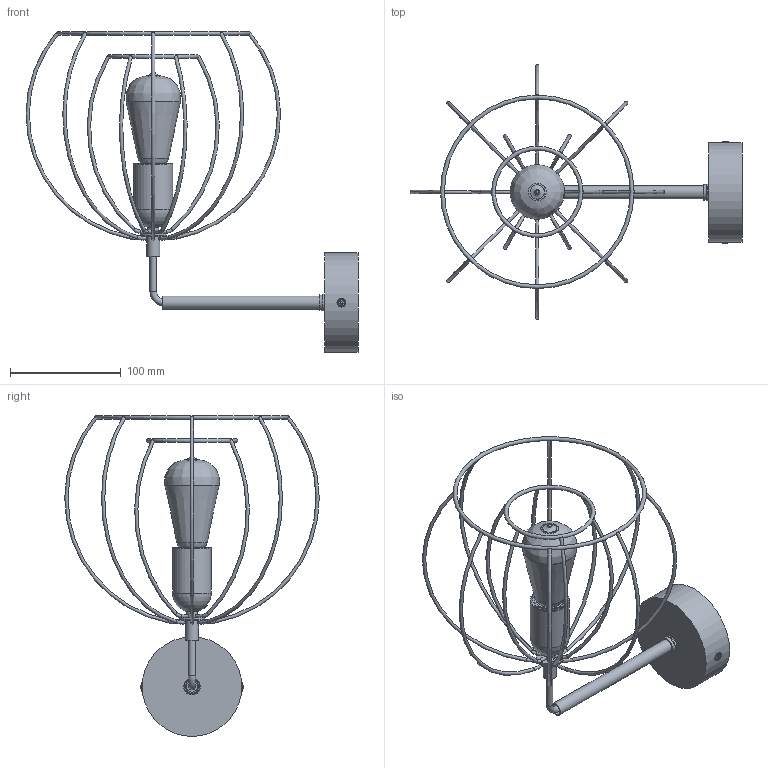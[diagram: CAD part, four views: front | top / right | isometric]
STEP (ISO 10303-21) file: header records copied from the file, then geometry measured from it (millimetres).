
FILE_DESCRIPTION(/* description */ (''),/* implementation_level */ '2;1');
FILE_NAME(/* name */ 'C:/Users/Jakub Wieczorkowski/Desktop/STEP/JAULA_6250 v5 v3 v1.step',/* time_stamp */ '2022-02-22T09:05:57+01:00',/* author */ (''),/* organization */ (''),/* preprocessor_version */ 'ST-DEVELOPER v18.1',/* originating_system */ 'Autodesk Translation Framework v10.13.0.1454',/* authorisation */ '');
FILE_SCHEMA (('AUTOMOTIVE_DESIGN { 1 0 10303 214 3 1 1 }'));
Length unit declared in the file: millimetre
Products named in the file (4): JAULA_6250 v5 v3; JAULA_OPRAWA v5; SRUBA JAULA v1; SRUBA JAULA v1(Mirror)
Assembly tree (3 placements, depth 2):
  JAULA_6250 v5 v3
    JAULA_OPRAWA v5
    SRUBA JAULA v1
    SRUBA JAULA v1(Mirror)
Bounding box: 300.02 x 230.05 x 290 mm (x, y, z)
Volume: 288424.5 mm3; surface area: 112562.9 mm2
Topology: 37 solids, 37 shells, 203 faces, 367 edges, 238 vertices
Faces by surface type: plane 92, cylinder 42, torus 36, cone 18, bspline 11, sphere 4
Full cylindrical faces by diameter (mm): 1.217 x4, 3 x14, 6 x2, 6.084 x1, 8 x2, 9.911 x1, 10 x1, 11.911 x1, 12 x1, 13 x1, 15 x1, 23.801 x1, 24.6 x1, 33.93 x1, 35.1 x1, 90 x1
Entity records: 5628 total; most frequent: CARTESIAN_POINT 1363, DIRECTION 956, ORIENTED_EDGE 730, AXIS2_PLACEMENT_3D 424, EDGE_CURVE 365, VERTEX_POINT 238, CIRCLE 225, EDGE_LOOP 209
